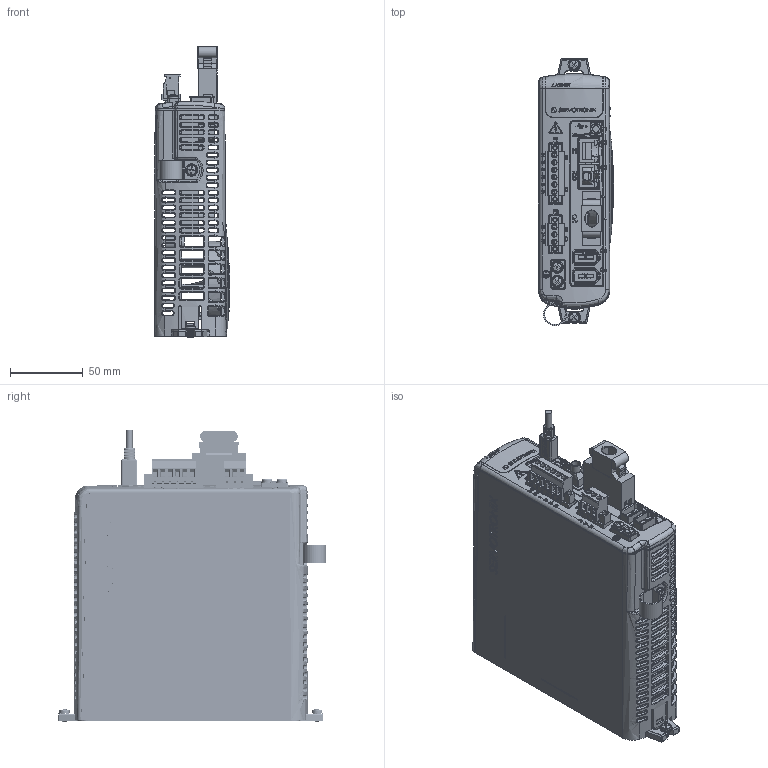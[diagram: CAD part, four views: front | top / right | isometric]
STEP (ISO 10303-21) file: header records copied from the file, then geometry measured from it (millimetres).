
FILE_DESCRIPTION (( 'STEP AP214' ), '1' );
FILE_NAME ('LDHD2.STEP', '2020-04-12T06:03:58', ( '' ), ( '' ), 'SwSTEP 2.0', 'SolidWorks 2016', '' );
FILE_SCHEMA (( 'AUTOMOTIVE_DESIGN' ));
Length unit declared in the file: millimetre
Products named in the file (1): LDHD2
Bounding box: 52.1 x 184.61 x 200.8 mm (x, y, z)
Surface area: 288361.4 mm2 (no closed solid volume)
Topology: 0 solids, 156 shells, 4104 faces, 15816 edges, 11375 vertices
Faces by surface type: plane 1732, bspline 1431, cylinder 461, cone 411, torus 64, sphere 5
Full cylindrical faces by diameter (mm): 0.45 x1, 0.6 x1, 1.372 x2, 3.5 x4, 3.75 x9, 4 x5, 4.4 x2, 4.5 x1, 5.24 x1, 5.6 x5, 6 x2, 6.6 x1, 7 x5, 7.5 x1, 8.5 x1, 27 x1, 58 x1
Entity records: 267996 total; most frequent: CARTESIAN_POINT 111375, ORIENTED_EDGE 24615, DIRECTION 17037, EDGE_CURVE 15673, VERTEX_POINT 11328, LINE 6453, VECTOR 6453, B_SPLINE_CURVE_WITH_KNOTS 5440
